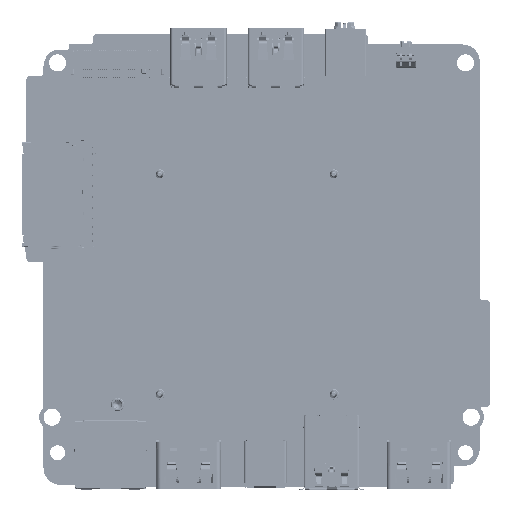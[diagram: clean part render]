
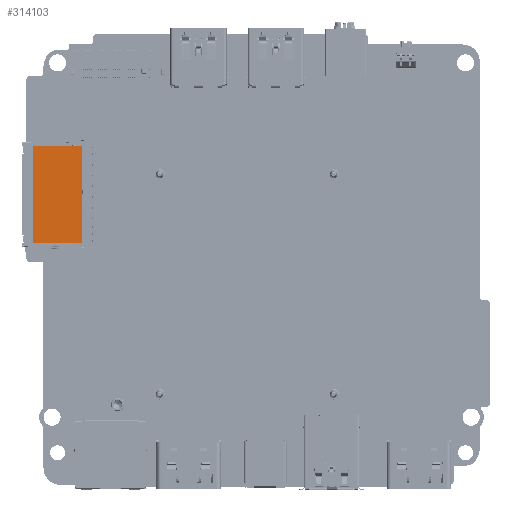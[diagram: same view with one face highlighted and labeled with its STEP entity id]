
A CAD part, front view. The second image highlights one B-rep face of the part: STEP entity #314103.
In plain terms, the highlighted planar face has unit normal (0, -1, 0) as drawn and (0, 0, 1) by its records, which use the part's own axes.
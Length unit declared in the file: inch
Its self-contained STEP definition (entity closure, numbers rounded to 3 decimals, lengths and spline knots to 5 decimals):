
#19812 = DIRECTION ( 'NONE',  ( 1., 0., 0. ) ) ;
#25303 = EDGE_CURVE ( 'NONE', #51457, #249739, #239479, .T. ) ;
#32080 = CARTESIAN_POINT ( 'NONE',  ( -0.44291, 0., 0.11063 ) ) ;
#32520 = CARTESIAN_POINT ( 'NONE',  ( 0., 0., 0.11063 ) ) ;
#38977 = VERTEX_POINT ( 'NONE', #50063 ) ;
#39646 = DIRECTION ( 'NONE',  ( 0., -1., 0. ) ) ;
#48691 = VECTOR ( 'NONE', #19812, 39.37008 ) ;
#50063 = CARTESIAN_POINT ( 'NONE',  ( -0.44291, 0.22638, 0.11063 ) ) ;
#51457 = VERTEX_POINT ( 'NONE', #93165 ) ;
#58269 = CARTESIAN_POINT ( 'NONE',  ( 0.44291, 0., 0.11063 ) ) ;
#58711 = VECTOR ( 'NONE', #151480, 39.37008 ) ;
#58812 = AXIS2_PLACEMENT_3D ( 'NONE', #32520, #84526, #283233 ) ;
#63193 = DIRECTION ( 'NONE',  ( 0., -1., 0. ) ) ;
#84526 = DIRECTION ( 'NONE',  ( 0., 0., 1. ) ) ;
#89605 = ORIENTED_EDGE ( 'NONE', *, *, #249096, .F. ) ;
#93165 = CARTESIAN_POINT ( 'NONE',  ( -0.44291, -0.22638, 0.11063 ) ) ;
#99252 = EDGE_LOOP ( 'NONE', ( #180267, #180892, #89605, #279660 ) ) ;
#115614 = VECTOR ( 'NONE', #63193, 39.37008 ) ;
#133660 = VERTEX_POINT ( 'NONE', #259029 ) ;
#140612 = EDGE_CURVE ( 'NONE', #38977, #51457, #239585, .T. ) ;
#151480 = DIRECTION ( 'NONE',  ( 1., 0., 0. ) ) ;
#169806 = FACE_OUTER_BOUND ( 'NONE', #99252, .T. ) ;
#180267 = ORIENTED_EDGE ( 'NONE', *, *, #25303, .T. ) ;
#180892 = ORIENTED_EDGE ( 'NONE', *, *, #299364, .F. ) ;
#236404 = LINE ( 'NONE', #285624, #58711 ) ;
#239479 = LINE ( 'NONE', #359829, #48691 ) ;
#239585 = LINE ( 'NONE', #32080, #337178 ) ;
#249096 = EDGE_CURVE ( 'NONE', #38977, #133660, #236404, .T. ) ;
#249739 = VERTEX_POINT ( 'NONE', #348616 ) ;
#254632 = PLANE ( 'NONE',  #58812 ) ;
#259029 = CARTESIAN_POINT ( 'NONE',  ( 0.44291, 0.22638, 0.11063 ) ) ;
#279660 = ORIENTED_EDGE ( 'NONE', *, *, #140612, .T. ) ;
#283233 = DIRECTION ( 'NONE',  ( 1., 0., 0. ) ) ;
#285624 = CARTESIAN_POINT ( 'NONE',  ( 0., 0.22638, 0.11063 ) ) ;
#299364 = EDGE_CURVE ( 'NONE', #133660, #249739, #301950, .T. ) ;
#301950 = LINE ( 'NONE', #58269, #115614 ) ;
#314103 = ADVANCED_FACE ( 'NONE', ( #169806 ), #254632, .T. ) ;
#337178 = VECTOR ( 'NONE', #39646, 39.37008 ) ;
#348616 = CARTESIAN_POINT ( 'NONE',  ( 0.44291, -0.22638, 0.11063 ) ) ;
#359829 = CARTESIAN_POINT ( 'NONE',  ( 0., -0.22638, 0.11063 ) ) ;
